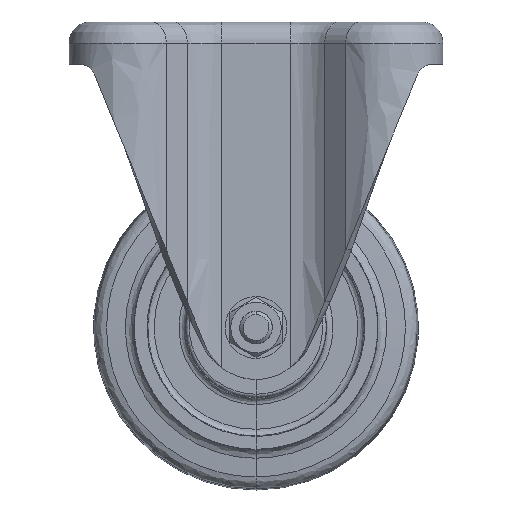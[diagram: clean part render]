
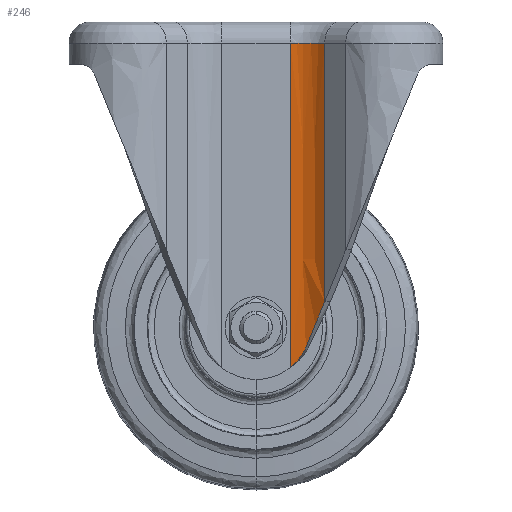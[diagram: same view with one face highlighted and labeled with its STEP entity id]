
A CAD part, front view. The second image highlights one B-rep face of the part: STEP entity #246.
In plain terms, the highlighted free-form (B-spline) face has degree [3, 3] with [4, 4] control points.
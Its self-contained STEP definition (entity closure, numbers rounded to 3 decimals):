
#246 = ADVANCED_FACE ( 'NONE', ( #1392 ), #8257, .F. ) ;
#1392 = FACE_OUTER_BOUND ( 'NONE', #22178, .T. ) ;
#2105 = VECTOR ( 'NONE', #25163, 1000. ) ;
#2109 = LINE ( 'NONE', #24883, #2111 ) ;
#2111 = VECTOR ( 'NONE', #24884, 1000. ) ;
#2164 = LINE ( 'NONE', #25162, #2105 ) ;
#4454 = ORIENTED_EDGE ( 'NONE', *, *, #29786, .T. ) ;
#4502 = ORIENTED_EDGE ( 'NONE', *, *, #29980, .F. ) ;
#4599 = ORIENTED_EDGE ( 'NONE', *, *, #29800, .T. ) ;
#4639 = ORIENTED_EDGE ( 'NONE', *, *, #29740, .F. ) ;
#8257 = B_SPLINE_SURFACE_WITH_KNOTS ( 'NONE', 3, 3, ( 
 ( #14108, #14084, #14109, #14087 ),
 ( #14110, #14111, #14112, #14113 ),
 ( #14114, #14115, #14116, #14117 ),
 ( #14118, #14119, #14120, #14121 ) ),
 .UNSPECIFIED., .F., .F., .F.,
 ( 4, 4 ),
 ( 4, 4 ),
 ( 0., 1. ),
 ( 0.059, 0.972 ),
 .UNSPECIFIED. ) ;
#14084 = CARTESIAN_POINT ( 'NONE',  ( 10.538, -24., 54.025 ) ) ;
#14087 = CARTESIAN_POINT ( 'NONE',  ( 10.538, -24., -12.926 ) ) ;
#14108 = CARTESIAN_POINT ( 'NONE',  ( 10.538, -24., 87.5 ) ) ;
#14109 = CARTESIAN_POINT ( 'NONE',  ( 10.538, -24., 20.549 ) ) ;
#14110 = CARTESIAN_POINT ( 'NONE',  ( 14.516, -24., 87.5 ) ) ;
#14111 = CARTESIAN_POINT ( 'NONE',  ( 14.516, -24., 54.025 ) ) ;
#14112 = CARTESIAN_POINT ( 'NONE',  ( 14.516, -24., 20.549 ) ) ;
#14113 = CARTESIAN_POINT ( 'NONE',  ( 14.516, -24., -12.926 ) ) ;
#14114 = CARTESIAN_POINT ( 'NONE',  ( 18.332, -25.58, 87.5 ) ) ;
#14115 = CARTESIAN_POINT ( 'NONE',  ( 18.332, -25.58, 54.025 ) ) ;
#14116 = CARTESIAN_POINT ( 'NONE',  ( 18.332, -25.58, 20.549 ) ) ;
#14117 = CARTESIAN_POINT ( 'NONE',  ( 18.332, -25.58, -12.926 ) ) ;
#14118 = CARTESIAN_POINT ( 'NONE',  ( 21.145, -28.393, 87.5 ) ) ;
#14119 = CARTESIAN_POINT ( 'NONE',  ( 21.145, -28.393, 54.025 ) ) ;
#14120 = CARTESIAN_POINT ( 'NONE',  ( 21.145, -28.393, 20.549 ) ) ;
#14121 = CARTESIAN_POINT ( 'NONE',  ( 21.145, -28.393, -12.926 ) ) ;
#20104 = B_SPLINE_CURVE_WITH_KNOTS ( 'NONE', 3,
 ( #25127, #25139, #25140, #25141 ),
 .UNSPECIFIED., .F., .F.,
 ( 4, 4 ),
 ( 0., 1. ),
 .UNSPECIFIED. ) ;
#22178 = EDGE_LOOP ( 'NONE', ( #4502, #4599, #4454, #4639 ) ) ;
#23604 = CARTESIAN_POINT ( 'NONE',  ( 10.538, -24., -12.327 ) ) ;
#23687 = CARTESIAN_POINT ( 'NONE',  ( 10.538, -24., 87.5 ) ) ;
#23712 = CARTESIAN_POINT ( 'NONE',  ( 21.145, -28.393, 8.009 ) ) ;
#23754 = CARTESIAN_POINT ( 'NONE',  ( 21.145, -28.393, 87.5 ) ) ;
#24883 = CARTESIAN_POINT ( 'NONE',  ( 10.538, -24., 94. ) ) ;
#24884 = DIRECTION ( 'NONE',  ( 0., 0., 1. ) ) ;
#25127 = CARTESIAN_POINT ( 'NONE',  ( 21.145, -28.393, 87.5 ) ) ;
#25139 = CARTESIAN_POINT ( 'NONE',  ( 18.332, -25.58, 87.5 ) ) ;
#25140 = CARTESIAN_POINT ( 'NONE',  ( 14.516, -24., 87.5 ) ) ;
#25141 = CARTESIAN_POINT ( 'NONE',  ( 10.538, -24., 87.5 ) ) ;
#25162 = CARTESIAN_POINT ( 'NONE',  ( 21.145, -28.393, 94. ) ) ;
#25163 = DIRECTION ( 'NONE',  ( 0., 0., 1. ) ) ;
#26941 = B_SPLINE_CURVE_WITH_KNOTS ( 'NONE', 3,
 ( #27340, #27345, #27346, #27347, #27348, #27349, #27350, #27351, #27352, #27353, #27354, #27355, #27356, #27357, #27358, #27359, #27360, #27361, #27362, #27363, #27364, #27365, #27366, #27367, #27368 ),
 .UNSPECIFIED., .F., .F.,
 ( 4, 2, 2, 2, 2, 2, 2, 1, 2, 2, 2, 2, 4 ),
 ( -0.016, -0.011, -0.005, -0.002, 0., 0., 0., 0., 0.001, 0.001, 0.003, 0.004, 0.007 ),
 .UNSPECIFIED. ) ;
#27340 = CARTESIAN_POINT ( 'NONE',  ( 21.145, -28.393, 8.009 ) ) ;
#27345 = CARTESIAN_POINT ( 'NONE',  ( 20.444, -27.693, 6.295 ) ) ;
#27346 = CARTESIAN_POINT ( 'NONE',  ( 19.729, -27.113, 4.546 ) ) ;
#27347 = CARTESIAN_POINT ( 'NONE',  ( 18.279, -26.122, 1.001 ) ) ;
#27348 = CARTESIAN_POINT ( 'NONE',  ( 17.546, -25.713, -0.791 ) ) ;
#27349 = CARTESIAN_POINT ( 'NONE',  ( 16.441, -25.204, -3.497 ) ) ;
#27350 = CARTESIAN_POINT ( 'NONE',  ( 16.071, -25.052, -4.402 ) ) ;
#27351 = CARTESIAN_POINT ( 'NONE',  ( 15.515, -24.848, -5.762 ) ) ;
#27352 = CARTESIAN_POINT ( 'NONE',  ( 15.329, -24.784, -6.216 ) ) ;
#27353 = CARTESIAN_POINT ( 'NONE',  ( 15.132, -24.721, -6.699 ) ) ;
#27354 = CARTESIAN_POINT ( 'NONE',  ( 15.12, -24.717, -6.727 ) ) ;
#27355 = CARTESIAN_POINT ( 'NONE',  ( 15.097, -24.71, -6.784 ) ) ;
#27356 = CARTESIAN_POINT ( 'NONE',  ( 15.083, -24.705, -6.811 ) ) ;
#27357 = CARTESIAN_POINT ( 'NONE',  ( 15.041, -24.692, -6.893 ) ) ;
#27358 = CARTESIAN_POINT ( 'NONE',  ( 14.955, -24.665, -7.055 ) ) ;
#27359 = CARTESIAN_POINT ( 'NONE',  ( 14.867, -24.638, -7.216 ) ) ;
#27360 = CARTESIAN_POINT ( 'NONE',  ( 14.687, -24.585, -7.536 ) ) ;
#27361 = CARTESIAN_POINT ( 'NONE',  ( 14.563, -24.549, -7.747 ) ) ;
#27362 = CARTESIAN_POINT ( 'NONE',  ( 14.176, -24.445, -8.369 ) ) ;
#27363 = CARTESIAN_POINT ( 'NONE',  ( 13.901, -24.379, -8.773 ) ) ;
#27364 = CARTESIAN_POINT ( 'NONE',  ( 13.316, -24.256, -9.557 ) ) ;
#27365 = CARTESIAN_POINT ( 'NONE',  ( 13.005, -24.201, -9.938 ) ) ;
#27366 = CARTESIAN_POINT ( 'NONE',  ( 12.026, -24.059, -11.038 ) ) ;
#27367 = CARTESIAN_POINT ( 'NONE',  ( 11.314, -24., -11.713 ) ) ;
#27368 = CARTESIAN_POINT ( 'NONE',  ( 10.538, -24., -12.327 ) ) ;
#28899 = VERTEX_POINT ( 'NONE', #23604 ) ;
#28982 = VERTEX_POINT ( 'NONE', #23687 ) ;
#29007 = VERTEX_POINT ( 'NONE', #23712 ) ;
#29049 = VERTEX_POINT ( 'NONE', #23754 ) ;
#29740 = EDGE_CURVE ( 'NONE', #28899, #28982, #2109, .T. ) ;
#29786 = EDGE_CURVE ( 'NONE', #29049, #28982, #20104, .T. ) ;
#29800 = EDGE_CURVE ( 'NONE', #29007, #29049, #2164, .T. ) ;
#29980 = EDGE_CURVE ( 'NONE', #29007, #28899, #26941, .T. ) ;
